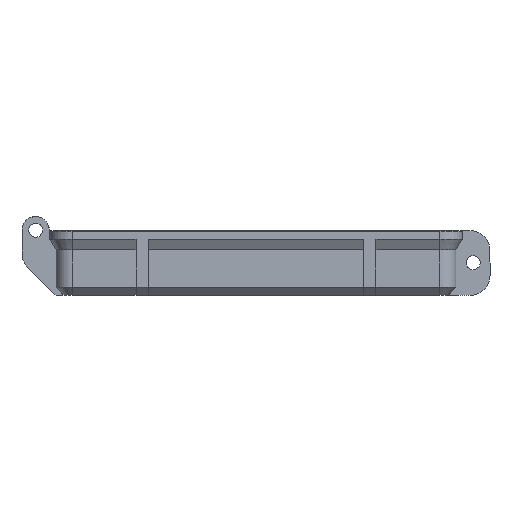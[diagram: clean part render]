
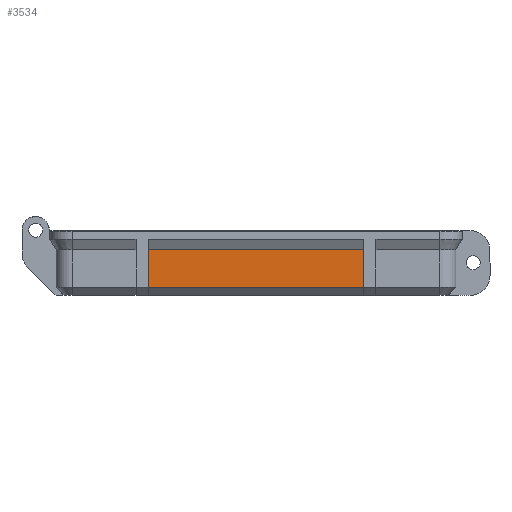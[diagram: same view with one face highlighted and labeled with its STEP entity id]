
A CAD part, left-side view. The second image highlights one B-rep face of the part: STEP entity #3534.
In plain terms, the highlighted planar face has unit normal (-1, 0, 0).
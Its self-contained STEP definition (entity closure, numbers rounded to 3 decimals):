
#257 = CARTESIAN_POINT ( 'NONE',  ( -109.5, 45.95, 13. ) ) ;
#297 = VECTOR ( 'NONE', #4457, 1000. ) ;
#642 = CARTESIAN_POINT ( 'NONE',  ( -109.5, -27., 10.402 ) ) ;
#665 = DIRECTION ( 'NONE',  ( 0., 0., -1. ) ) ;
#1119 = VERTEX_POINT ( 'NONE', #13710 ) ;
#1255 = AXIS2_PLACEMENT_3D ( 'NONE', #257, #2647, #7062 ) ;
#1481 = DIRECTION ( 'NONE',  ( 0., 1., 0. ) ) ;
#1936 = ORIENTED_EDGE ( 'NONE', *, *, #12024, .F. ) ;
#2068 = LINE ( 'NONE', #8036, #297 ) ;
#2647 = DIRECTION ( 'NONE',  ( 1., 0., 0. ) ) ;
#3421 = ORIENTED_EDGE ( 'NONE', *, *, #12632, .T. ) ;
#3534 = ADVANCED_FACE ( 'NONE', ( #10843 ), #13168, .F. ) ;
#4179 = EDGE_CURVE ( 'NONE', #1119, #10614, #2068, .T. ) ;
#4457 = DIRECTION ( 'NONE',  ( 0., 1., 0. ) ) ;
#4790 = ORIENTED_EDGE ( 'NONE', *, *, #4179, .F. ) ;
#5280 = CARTESIAN_POINT ( 'NONE',  ( -109.5, 27., 10.402 ) ) ;
#6125 = VECTOR ( 'NONE', #12623, 1000. ) ;
#6262 = VERTEX_POINT ( 'NONE', #5280 ) ;
#6970 = EDGE_LOOP ( 'NONE', ( #1936, #3421, #11311, #4790 ) ) ;
#7062 = DIRECTION ( 'NONE',  ( 0., 0., -1. ) ) ;
#8036 = CARTESIAN_POINT ( 'NONE',  ( -109.5, 45.95, 1. ) ) ;
#8384 = CARTESIAN_POINT ( 'NONE',  ( -109.5, 27., 1. ) ) ;
#10088 = VECTOR ( 'NONE', #665, 1000. ) ;
#10166 = CARTESIAN_POINT ( 'NONE',  ( -109.5, -27., 10.402 ) ) ;
#10321 = EDGE_CURVE ( 'NONE', #6262, #10614, #12249, .T. ) ;
#10614 = VERTEX_POINT ( 'NONE', #8384 ) ;
#10843 = FACE_OUTER_BOUND ( 'NONE', #6970, .T. ) ;
#11250 = LINE ( 'NONE', #10166, #10088 ) ;
#11311 = ORIENTED_EDGE ( 'NONE', *, *, #10321, .T. ) ;
#12024 = EDGE_CURVE ( 'NONE', #14052, #1119, #11250, .T. ) ;
#12220 = CARTESIAN_POINT ( 'NONE',  ( -109.5, 45.95, 10.402 ) ) ;
#12249 = LINE ( 'NONE', #12466, #6125 ) ;
#12466 = CARTESIAN_POINT ( 'NONE',  ( -109.5, 27., 10.402 ) ) ;
#12623 = DIRECTION ( 'NONE',  ( 0., 0., -1. ) ) ;
#12632 = EDGE_CURVE ( 'NONE', #14052, #6262, #14306, .T. ) ;
#13168 = PLANE ( 'NONE',  #1255 ) ;
#13710 = CARTESIAN_POINT ( 'NONE',  ( -109.5, -27., 1. ) ) ;
#14052 = VERTEX_POINT ( 'NONE', #642 ) ;
#14306 = LINE ( 'NONE', #12220, #15056 ) ;
#15056 = VECTOR ( 'NONE', #1481, 1000. ) ;
